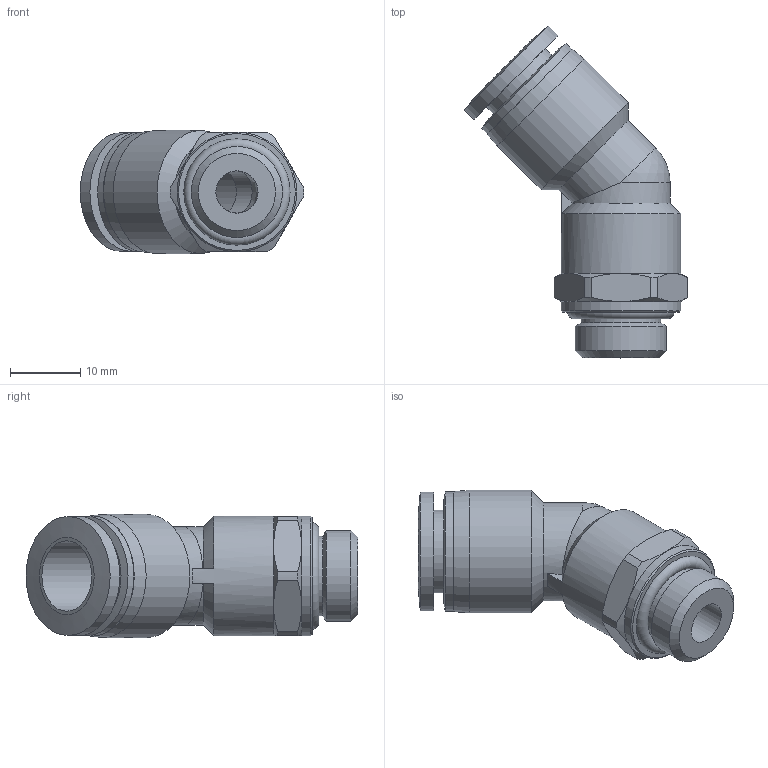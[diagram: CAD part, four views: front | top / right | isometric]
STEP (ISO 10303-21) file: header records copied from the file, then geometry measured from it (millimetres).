
FILE_DESCRIPTION(/* description */ (''),/* implementation_level */ '2;1');
FILE_NAME(/* name */ 'D:\CDC pneumatics\inventor\PL 45\G 나사\PL 45 10-G02.stp',/* time_stamp */ '2015-11-16T17:54:50+09:00',/* author */ ('DIAMOND'),/* organization */ (''),/* preprocessor_version */ 'ST-DEVELOPER v15.6',/* originating_system */ 'Autodesk Inventor 2015',/* authorisation */ '');
FILE_SCHEMA (('AUTOMOTIVE_DESIGN { 1 0 10303 214 3 1 1 }'));
Length unit declared in the file: millimetre
Products named in the file (1): PL 45 10-G02
Bounding box: 31.77 x 47.17 x 17.5 mm (x, y, z)
Volume: 7215.4 mm3; surface area: 4327 mm2
Topology: 1 solids, 1 shells, 62 faces, 139 edges, 84 vertices
Faces by surface type: cone 22, cylinder 22, plane 15, bspline 1, sphere 1, torus 1
Full cylindrical faces by diameter (mm): 6 x2, 10 x1, 11.3 x1, 11.8 x1, 12.95 x1, 14 x2, 16.9 x1, 17 x3, 17.5 x1
Entity records: 1611 total; most frequent: CARTESIAN_POINT 352, DIRECTION 277, ORIENTED_EDGE 228, AXIS2_PLACEMENT_3D 129, EDGE_CURVE 113, EDGE_LOOP 88, VERTEX_POINT 79, FACE_OUTER_BOUND 61
